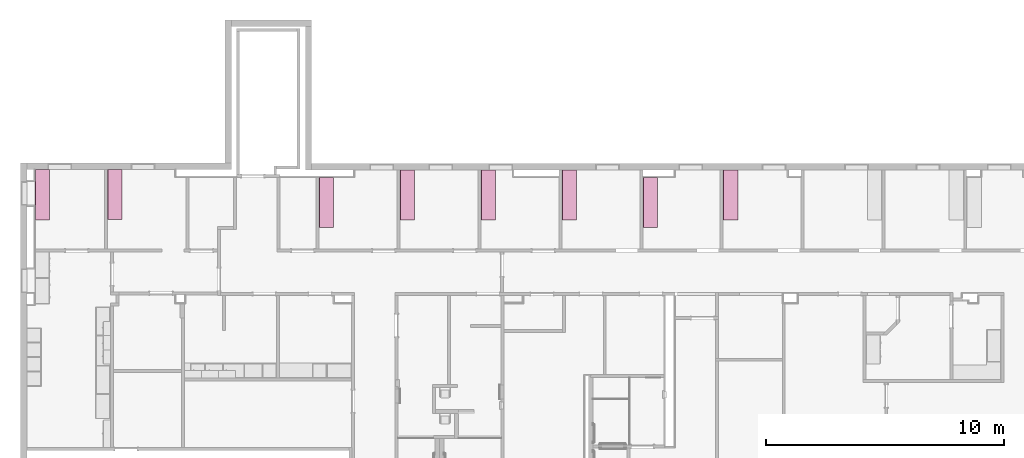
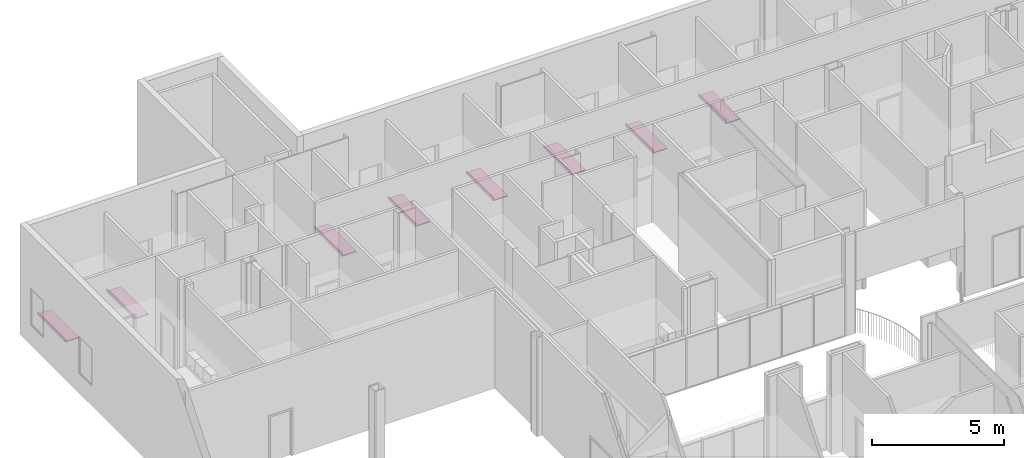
# One storey, part 44 of 47: 8 furnishings, 7 openings.
"""IFC2X3 building model written with IfcOpenShell, lengths in metres."""

from ifc_helpers import new_model, entity, si_unit, converted_unit, frame, frame_2d, origin, origin_2d_with_axis, place, context, project, spatial, polyline, circle_curve, parameter, trimmed, segment, composite_curve, rectangle, outline, extrude, source, transform, mapped, type_object, type_shapes, element, save


model = new_model("IFC2X3")

# Units and contexts
model_context = context("Model", 3, precision=1e-09, world=origin())
plan_context = context("Plan", 3, precision=1e-09, world=origin())
ifc_project = project(units=[si_unit("LENGTHUNIT", "METRE"), si_unit("AREAUNIT", "SQUARE_METRE"), si_unit("VOLUMEUNIT", "CUBIC_METRE"), converted_unit("PLANEANGLEUNIT", "DEGREE", entity("IfcRatioMeasure", 0.01745329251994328), si_unit("PLANEANGLEUNIT", "RADIAN"), dimensions=[0, 0, 0, 0, 0, 0, 0]), si_unit("TIMEUNIT", "SECOND")], contexts=[model_context, plan_context])

# Site, building, storey, space
site_placement = place(None, origin())
site = spatial("IfcSite", under=ifc_project, at=site_placement, Name="Default", CompositionType="ELEMENT")
building_placement = place(site_placement, origin())
building = spatial("IfcBuilding", under=site, at=building_placement, CompositionType="ELEMENT")
storey_placement = place(building_placement, frame((0.0, 0.0, 4.570000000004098)))
storey = spatial("IfcBuildingStorey", under=building, at=storey_placement, Name="Second Floor", CompositionType="ELEMENT", Elevation=4.570000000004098)
space_1_placement = place(storey_placement, origin())
space_1 = spatial("IfcSpace", under=storey, at=space_1_placement, Name="2C16", CompositionType="ELEMENT", InteriorOrExteriorSpace="INTERNAL")

# Furnishing
furniture_type_1 = type_object("IfcFurnitureType", Name="600mm Depth", AssemblyPlace="NOTDEFINED")
shared_shape_1 = source(origin(), model_context, "Body", "SweptSolid", [
    extrude(rectangle(XDim=0.01905000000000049, YDim=2.129539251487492, at=origin_2d_with_axis()), frame((-0.1356926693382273, -0.009525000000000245, 0.9000000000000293), z_axis=(0.0, 0.0, 1.0), x_axis=(0.0, -1.0, 0.0)), (0.0, 0.0, 1.0), 0.1016000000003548),
    extrude(rectangle(XDim=2.129539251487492, YDim=0.5999999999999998, at=origin_2d_with_axis()), frame((-0.1356926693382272, -0.2999999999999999, 0.8600000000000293), z_axis=(0.0, 0.0, 1.0), x_axis=(-1.0, 0.0, 0.0)), (0.0, 0.0, 1.0), 0.04000000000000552),
])
type_shapes(furniture_type_1, [shared_shape_1])
furnishing_1_placement = place(space_1_placement, frame((-46.77000000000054, 49.3083617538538, 0.0), z_axis=(0.0, 0.0, 1.0), x_axis=(0.0, 1.0, 0.0)))
element("IfcFurnishingElement", 1, at=furnishing_1_placement, inside=space_1, type_object=furniture_type_1, Name="M_Counter Top:600mm Depth:600mm Depth", ObjectType="600mm Depth", context=model_context, shape_type="MappedRepresentation", body=[
    mapped(shared_shape_1, transform((0.0, 0.0, 0.0), scale=1.0)),
])

# Space
space_2_placement = place(storey_placement, origin())
space_2 = spatial("IfcSpace", under=storey, at=space_2_placement, Name="2C14", CompositionType="ELEMENT", InteriorOrExteriorSpace="INTERNAL")

# Furnishing, opening
furniture_type_2 = type_object("IfcFurnitureType", Name="600mm Depth", AssemblyPlace="NOTDEFINED")
shared_shape_2 = source(origin(), model_context, "Body", "SweptSolid", [
    extrude(outline(polyline([(-0.0605333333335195, -0.2146833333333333), (0.08106666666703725, -0.2146833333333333), (0.08106666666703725, -0.1956333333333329), (-0.02053333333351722, -0.1956333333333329), (-0.02053333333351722, 0.4103166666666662), (-0.0605333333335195, 0.4103166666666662), (-0.0605333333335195, -0.2146833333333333)])), frame((-1.200462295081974, -0.2146833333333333, 0.920533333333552), z_axis=(1.0, 0.0, 0.0), x_axis=(0.0, 0.0, 1.0)), (0.0, 0.0, 1.0), 2.10996063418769),
])
type_shapes(furniture_type_2, [shared_shape_2])
furnishing_2_placement = place(space_2_placement, frame((-43.73000000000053, 49.3279403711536, 0.0), z_axis=(0.0, 0.0, 1.0), x_axis=(0.0, 1.0, 0.0)))
furnishing_2 = element("IfcFurnishingElement", 2, at=furnishing_2_placement, inside=space_2, type_object=furniture_type_2, Name="M_Counter Top w Sink Hole:600mm Depth:600mm Depth", ObjectType="600mm Depth", context=model_context, shape_type="MappedRepresentation", body=[
    mapped(shared_shape_2, transform((0.0, 0.0, 0.0), scale=1.0)),
])
opening_1_placement = place(space_2_placement, frame((-43.73000000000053, 49.3279403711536, 0.0), z_axis=(0.0, 0.0, 1.0), x_axis=(0.0, 1.0, 0.0)))
element("IfcOpeningElement", 3, at=opening_1_placement, cuts=furnishing_2, Name="M_Counter Top w Sink Hole:600mm Depth:600mm Depth:1", ObjectType="Opening", context=model_context, shape_type="SweptSolid", body=[
    extrude(outline(composite_curve([segment(polyline([(-0.1397000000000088, -0.2017000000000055), (0.1396999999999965, -0.2017000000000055)]), True, "CONTINUOUS"), segment(trimmed(circle_curve(frame_2d((0.1396999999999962, -0.1508999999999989), x_axis=(1.0, 0.0)), 0.05080000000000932), [parameter(270.0000000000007)], [parameter(1.068666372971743e-12)], True, "PARAMETER"), True, "CONTINUOUS"), segment(polyline([(0.1905000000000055, -0.1508999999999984), (0.1905000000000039, 0.1509000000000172)]), True, "CONTINUOUS"), segment(trimmed(circle_curve(frame_2d((0.1397000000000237, 0.1509000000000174), x_axis=(1.0, 0.0)), 0.05079999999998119), [parameter(359.9999999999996)], [parameter(90.0000000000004)], True, "PARAMETER"), True, "CONTINUOUS"), segment(polyline([(0.1397000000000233, 0.2016999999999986), (-0.1397000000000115, 0.2016999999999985)]), True, "CONTINUOUS"), segment(trimmed(circle_curve(frame_2d((-0.1397000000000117, 0.1509000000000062), x_axis=(1.0, 0.0)), 0.0507999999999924), [parameter(90.00000000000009)], [parameter(179.9999999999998)], True, "PARAMETER"), True, "CONTINUOUS"), segment(polyline([(-0.1905000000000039, 0.150900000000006), (-0.1905000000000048, -0.1509000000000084)]), True, "CONTINUOUS"), segment(trimmed(circle_curve(frame_2d((-0.1397000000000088, -0.1509000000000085), x_axis=(1.0, 0.0)), 0.05079999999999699), [parameter(179.9999999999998)], [parameter(269.9999999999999)], True, "PARAMETER"), True, "CONTINUOUS")], self_intersect=False)), frame((-0.2890000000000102, 0.861511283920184, -3.670000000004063), z_axis=(0.0, 0.0, -1.0), x_axis=(0.0, -1.0, 0.0)), (0.0, 0.0, 1.0), 0.04000000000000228),
])

# Space
space_3_placement = place(storey_placement, origin())
space_3 = spatial("IfcSpace", under=storey, at=space_3_placement, Name="2C09", CompositionType="ELEMENT", InteriorOrExteriorSpace="INTERNAL")

# Furnishing, opening
furniture_type_3 = type_object("IfcFurnitureType", Name="600mm Depth", AssemblyPlace="NOTDEFINED")
shared_shape_3 = source(origin(), model_context, "Body", "SweptSolid", [
    extrude(outline(polyline([(-0.0605333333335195, -0.2146833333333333), (0.08106666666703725, -0.2146833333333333), (0.08106666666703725, -0.1956333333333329), (-0.02053333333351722, -0.1956333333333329), (-0.02053333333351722, 0.4103166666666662), (-0.0605333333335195, 0.4103166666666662), (-0.0605333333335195, -0.2146833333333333)])), frame((-1.200462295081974, -0.2146833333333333, 0.920533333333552), z_axis=(1.0, 0.0, 0.0), x_axis=(0.0, 0.0, 1.0)), (0.0, 0.0, 1.0), 2.10996063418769),
])
type_shapes(furniture_type_3, [shared_shape_3])
furnishing_3_placement = place(space_3_placement, frame((-34.82600000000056, 48.9849403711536, 0.0), z_axis=(0.0, 0.0, 1.0), x_axis=(0.0, 1.0, 0.0)))
furnishing_3 = element("IfcFurnishingElement", 4, at=furnishing_3_placement, inside=space_3, type_object=furniture_type_3, Name="M_Counter Top w Sink Hole:600mm Depth:600mm Depth", ObjectType="600mm Depth", context=model_context, shape_type="MappedRepresentation", body=[
    mapped(shared_shape_3, transform((0.0, 0.0, 0.0), scale=1.0)),
])
opening_2_placement = place(space_3_placement, frame((-34.82600000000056, 48.9849403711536, 0.0), z_axis=(0.0, 0.0, 1.0), x_axis=(0.0, 1.0, 0.0)))
element("IfcOpeningElement", 5, at=opening_2_placement, cuts=furnishing_3, Name="M_Counter Top w Sink Hole:600mm Depth:600mm Depth:1", ObjectType="Opening", context=model_context, shape_type="SweptSolid", body=[
    extrude(outline(composite_curve([segment(polyline([(-0.1397000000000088, -0.2017000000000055), (0.1396999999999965, -0.2017000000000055)]), True, "CONTINUOUS"), segment(trimmed(circle_curve(frame_2d((0.1396999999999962, -0.1508999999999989), x_axis=(1.0, 0.0)), 0.05080000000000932), [parameter(270.0000000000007)], [parameter(1.068666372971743e-12)], True, "PARAMETER"), True, "CONTINUOUS"), segment(polyline([(0.1905000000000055, -0.1508999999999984), (0.1905000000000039, 0.1509000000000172)]), True, "CONTINUOUS"), segment(trimmed(circle_curve(frame_2d((0.1397000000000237, 0.1509000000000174), x_axis=(1.0, 0.0)), 0.05079999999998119), [parameter(359.9999999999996)], [parameter(90.0000000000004)], True, "PARAMETER"), True, "CONTINUOUS"), segment(polyline([(0.1397000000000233, 0.2016999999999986), (-0.1397000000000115, 0.2016999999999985)]), True, "CONTINUOUS"), segment(trimmed(circle_curve(frame_2d((-0.1397000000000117, 0.1509000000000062), x_axis=(1.0, 0.0)), 0.0507999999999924), [parameter(90.00000000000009)], [parameter(179.9999999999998)], True, "PARAMETER"), True, "CONTINUOUS"), segment(polyline([(-0.1905000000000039, 0.150900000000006), (-0.1905000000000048, -0.1509000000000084)]), True, "CONTINUOUS"), segment(trimmed(circle_curve(frame_2d((-0.1397000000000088, -0.1509000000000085), x_axis=(1.0, 0.0)), 0.05079999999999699), [parameter(179.9999999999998)], [parameter(269.9999999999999)], True, "PARAMETER"), True, "CONTINUOUS")], self_intersect=False)), frame((-0.2890000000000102, 0.861511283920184, -3.670000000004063), z_axis=(0.0, 0.0, -1.0), x_axis=(0.0, -1.0, 0.0)), (0.0, 0.0, 1.0), 0.04000000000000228),
])

# Space
space_4_placement = place(storey_placement, origin())
space_4 = spatial("IfcSpace", under=storey, at=space_4_placement, Name="2C06", CompositionType="ELEMENT", InteriorOrExteriorSpace="INTERNAL")

# Furnishing, opening
furniture_type_4 = type_object("IfcFurnitureType", Name="600mm Depth", AssemblyPlace="NOTDEFINED")
shared_shape_4 = source(origin(), model_context, "Body", "SweptSolid", [
    extrude(outline(polyline([(-0.0605333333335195, -0.2146833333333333), (0.08106666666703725, -0.2146833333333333), (0.08106666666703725, -0.1956333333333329), (-0.02053333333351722, -0.1956333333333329), (-0.02053333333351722, 0.4103166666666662), (-0.0605333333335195, 0.4103166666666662), (-0.0605333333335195, -0.2146833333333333)])), frame((-1.200462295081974, -0.2146833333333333, 0.920533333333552), z_axis=(1.0, 0.0, 0.0), x_axis=(0.0, 0.0, 1.0)), (0.0, 0.0, 1.0), 2.10996063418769),
])
type_shapes(furniture_type_4, [shared_shape_4])
furnishing_4_placement = place(space_4_placement, frame((-31.41600000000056, 49.2935016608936, 0.0), z_axis=(0.0, 0.0, 1.0), x_axis=(0.0, 1.0, 0.0)))
furnishing_4 = element("IfcFurnishingElement", 6, at=furnishing_4_placement, inside=space_4, type_object=furniture_type_4, Name="M_Counter Top w Sink Hole:600mm Depth:600mm Depth", ObjectType="600mm Depth", context=model_context, shape_type="MappedRepresentation", body=[
    mapped(shared_shape_4, transform((0.0, 0.0, 0.0), scale=1.0)),
])
opening_3_placement = place(space_4_placement, frame((-31.41600000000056, 49.2935016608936, 0.0), z_axis=(0.0, 0.0, 1.0), x_axis=(0.0, 1.0, 0.0)))
element("IfcOpeningElement", 7, at=opening_3_placement, cuts=furnishing_4, Name="M_Counter Top w Sink Hole:600mm Depth:600mm Depth:1", ObjectType="Opening", context=model_context, shape_type="SweptSolid", body=[
    extrude(outline(composite_curve([segment(polyline([(-0.1397000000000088, -0.2017000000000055), (0.1396999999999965, -0.2017000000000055)]), True, "CONTINUOUS"), segment(trimmed(circle_curve(frame_2d((0.1396999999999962, -0.1508999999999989), x_axis=(1.0, 0.0)), 0.05080000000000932), [parameter(270.0000000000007)], [parameter(1.068666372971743e-12)], True, "PARAMETER"), True, "CONTINUOUS"), segment(polyline([(0.1905000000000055, -0.1508999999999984), (0.1905000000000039, 0.1509000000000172)]), True, "CONTINUOUS"), segment(trimmed(circle_curve(frame_2d((0.1397000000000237, 0.1509000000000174), x_axis=(1.0, 0.0)), 0.05079999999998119), [parameter(359.9999999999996)], [parameter(90.0000000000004)], True, "PARAMETER"), True, "CONTINUOUS"), segment(polyline([(0.1397000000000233, 0.2016999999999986), (-0.1397000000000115, 0.2016999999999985)]), True, "CONTINUOUS"), segment(trimmed(circle_curve(frame_2d((-0.1397000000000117, 0.1509000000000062), x_axis=(1.0, 0.0)), 0.0507999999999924), [parameter(90.00000000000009)], [parameter(179.9999999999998)], True, "PARAMETER"), True, "CONTINUOUS"), segment(polyline([(-0.1905000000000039, 0.150900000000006), (-0.1905000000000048, -0.1509000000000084)]), True, "CONTINUOUS"), segment(trimmed(circle_curve(frame_2d((-0.1397000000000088, -0.1509000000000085), x_axis=(1.0, 0.0)), 0.05079999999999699), [parameter(179.9999999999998)], [parameter(269.9999999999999)], True, "PARAMETER"), True, "CONTINUOUS")], self_intersect=False)), frame((-0.2890000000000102, 0.861511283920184, -3.670000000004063), z_axis=(0.0, 0.0, -1.0), x_axis=(0.0, -1.0, 0.0)), (0.0, 0.0, 1.0), 0.04000000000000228),
])

# Space
space_5_placement = place(storey_placement, origin())
space_5 = spatial("IfcSpace", under=storey, at=space_5_placement, Name="2C04", CompositionType="ELEMENT", InteriorOrExteriorSpace="INTERNAL")

# Furnishing, opening
furniture_type_5 = type_object("IfcFurnitureType", Name="600mm Depth", AssemblyPlace="NOTDEFINED")
shared_shape_5 = source(origin(), model_context, "Body", "SweptSolid", [
    extrude(outline(polyline([(-0.0605333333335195, -0.2146833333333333), (0.08106666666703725, -0.2146833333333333), (0.08106666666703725, -0.1956333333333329), (-0.02053333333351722, -0.1956333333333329), (-0.02053333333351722, 0.4103166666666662), (-0.0605333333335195, 0.4103166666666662), (-0.0605333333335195, -0.2146833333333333)])), frame((-1.200462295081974, -0.2146833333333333, 0.920533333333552), z_axis=(1.0, 0.0, 0.0), x_axis=(0.0, 0.0, 1.0)), (0.0, 0.0, 1.0), 2.10996063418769),
])
type_shapes(furniture_type_5, [shared_shape_5])
furnishing_5_placement = place(space_5_placement, frame((-28.00600000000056, 49.29350166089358, 0.0), z_axis=(0.0, 0.0, 1.0), x_axis=(0.0, 1.0, 0.0)))
furnishing_5 = element("IfcFurnishingElement", 8, at=furnishing_5_placement, inside=space_5, type_object=furniture_type_5, Name="M_Counter Top w Sink Hole:600mm Depth:600mm Depth", ObjectType="600mm Depth", context=model_context, shape_type="MappedRepresentation", body=[
    mapped(shared_shape_5, transform((0.0, 0.0, 0.0), scale=1.0)),
])
opening_4_placement = place(space_5_placement, frame((-28.00600000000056, 49.29350166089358, 0.0), z_axis=(0.0, 0.0, 1.0), x_axis=(0.0, 1.0, 0.0)))
element("IfcOpeningElement", 9, at=opening_4_placement, cuts=furnishing_5, Name="M_Counter Top w Sink Hole:600mm Depth:600mm Depth:1", ObjectType="Opening", context=model_context, shape_type="SweptSolid", body=[
    extrude(outline(composite_curve([segment(polyline([(-0.1397000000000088, -0.2017000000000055), (0.1396999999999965, -0.2017000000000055)]), True, "CONTINUOUS"), segment(trimmed(circle_curve(frame_2d((0.1396999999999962, -0.1508999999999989), x_axis=(1.0, 0.0)), 0.05080000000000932), [parameter(270.0000000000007)], [parameter(1.068666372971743e-12)], True, "PARAMETER"), True, "CONTINUOUS"), segment(polyline([(0.1905000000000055, -0.1508999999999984), (0.1905000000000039, 0.1509000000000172)]), True, "CONTINUOUS"), segment(trimmed(circle_curve(frame_2d((0.1397000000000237, 0.1509000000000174), x_axis=(1.0, 0.0)), 0.05079999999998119), [parameter(359.9999999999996)], [parameter(90.0000000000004)], True, "PARAMETER"), True, "CONTINUOUS"), segment(polyline([(0.1397000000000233, 0.2016999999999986), (-0.1397000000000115, 0.2016999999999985)]), True, "CONTINUOUS"), segment(trimmed(circle_curve(frame_2d((-0.1397000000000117, 0.1509000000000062), x_axis=(1.0, 0.0)), 0.0507999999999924), [parameter(90.00000000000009)], [parameter(179.9999999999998)], True, "PARAMETER"), True, "CONTINUOUS"), segment(polyline([(-0.1905000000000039, 0.150900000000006), (-0.1905000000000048, -0.1509000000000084)]), True, "CONTINUOUS"), segment(trimmed(circle_curve(frame_2d((-0.1397000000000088, -0.1509000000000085), x_axis=(1.0, 0.0)), 0.05079999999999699), [parameter(179.9999999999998)], [parameter(269.9999999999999)], True, "PARAMETER"), True, "CONTINUOUS")], self_intersect=False)), frame((-0.2890000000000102, 0.861511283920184, -3.670000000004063), z_axis=(0.0, 0.0, -1.0), x_axis=(0.0, -1.0, 0.0)), (0.0, 0.0, 1.0), 0.04000000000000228),
])

# Space
space_6_placement = place(storey_placement, origin())
space_6 = spatial("IfcSpace", under=storey, at=space_6_placement, Name="2C02", CompositionType="ELEMENT", InteriorOrExteriorSpace="INTERNAL")

# Furnishing, opening
furniture_type_6 = type_object("IfcFurnitureType", Name="600mm Depth", AssemblyPlace="NOTDEFINED")
shared_shape_6 = source(origin(), model_context, "Body", "SweptSolid", [
    extrude(outline(polyline([(-0.0605333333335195, -0.2146833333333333), (0.08106666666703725, -0.2146833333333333), (0.08106666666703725, -0.1956333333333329), (-0.02053333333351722, -0.1956333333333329), (-0.02053333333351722, 0.4103166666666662), (-0.0605333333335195, 0.4103166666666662), (-0.0605333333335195, -0.2146833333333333)])), frame((-1.200462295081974, -0.2146833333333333, 0.920533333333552), z_axis=(1.0, 0.0, 0.0), x_axis=(0.0, 0.0, 1.0)), (0.0, 0.0, 1.0), 2.10996063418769),
])
type_shapes(furniture_type_6, [shared_shape_6])
furnishing_6_placement = place(space_6_placement, frame((-24.59600000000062, 49.29350166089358, 0.0), z_axis=(0.0, 0.0, 1.0), x_axis=(0.0, 1.0, 0.0)))
furnishing_6 = element("IfcFurnishingElement", 10, at=furnishing_6_placement, inside=space_6, type_object=furniture_type_6, Name="M_Counter Top w Sink Hole:600mm Depth:600mm Depth", ObjectType="600mm Depth", context=model_context, shape_type="MappedRepresentation", body=[
    mapped(shared_shape_6, transform((0.0, 0.0, 0.0), scale=1.0)),
])
opening_5_placement = place(space_6_placement, frame((-24.59600000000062, 49.29350166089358, 0.0), z_axis=(0.0, 0.0, 1.0), x_axis=(0.0, 1.0, 0.0)))
element("IfcOpeningElement", 11, at=opening_5_placement, cuts=furnishing_6, Name="M_Counter Top w Sink Hole:600mm Depth:600mm Depth:1", ObjectType="Opening", context=model_context, shape_type="SweptSolid", body=[
    extrude(outline(composite_curve([segment(polyline([(-0.1397000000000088, -0.2017000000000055), (0.1396999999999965, -0.2017000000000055)]), True, "CONTINUOUS"), segment(trimmed(circle_curve(frame_2d((0.1396999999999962, -0.1508999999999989), x_axis=(1.0, 0.0)), 0.05080000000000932), [parameter(270.0000000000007)], [parameter(1.068666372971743e-12)], True, "PARAMETER"), True, "CONTINUOUS"), segment(polyline([(0.1905000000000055, -0.1508999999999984), (0.1905000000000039, 0.1509000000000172)]), True, "CONTINUOUS"), segment(trimmed(circle_curve(frame_2d((0.1397000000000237, 0.1509000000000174), x_axis=(1.0, 0.0)), 0.05079999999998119), [parameter(359.9999999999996)], [parameter(90.0000000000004)], True, "PARAMETER"), True, "CONTINUOUS"), segment(polyline([(0.1397000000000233, 0.2016999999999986), (-0.1397000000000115, 0.2016999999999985)]), True, "CONTINUOUS"), segment(trimmed(circle_curve(frame_2d((-0.1397000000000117, 0.1509000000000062), x_axis=(1.0, 0.0)), 0.0507999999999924), [parameter(90.00000000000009)], [parameter(179.9999999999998)], True, "PARAMETER"), True, "CONTINUOUS"), segment(polyline([(-0.1905000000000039, 0.150900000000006), (-0.1905000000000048, -0.1509000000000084)]), True, "CONTINUOUS"), segment(trimmed(circle_curve(frame_2d((-0.1397000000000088, -0.1509000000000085), x_axis=(1.0, 0.0)), 0.05079999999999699), [parameter(179.9999999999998)], [parameter(269.9999999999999)], True, "PARAMETER"), True, "CONTINUOUS")], self_intersect=False)), frame((-0.2890000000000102, 0.861511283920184, -3.670000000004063), z_axis=(0.0, 0.0, -1.0), x_axis=(0.0, -1.0, 0.0)), (0.0, 0.0, 1.0), 0.04000000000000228),
])

# Space
space_7_placement = place(storey_placement, origin())
space_7 = spatial("IfcSpace", under=storey, at=space_7_placement, Name="2A09", CompositionType="ELEMENT", InteriorOrExteriorSpace="INTERNAL")

# Furnishing, opening
furniture_type_7 = type_object("IfcFurnitureType", Name="600mm Depth", AssemblyPlace="NOTDEFINED")
shared_shape_7 = source(origin(), model_context, "Body", "SweptSolid", [
    extrude(outline(polyline([(-0.0605333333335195, -0.2146833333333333), (0.08106666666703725, -0.2146833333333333), (0.08106666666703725, -0.1956333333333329), (-0.02053333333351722, -0.1956333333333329), (-0.02053333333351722, 0.4103166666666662), (-0.0605333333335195, 0.4103166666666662), (-0.0605333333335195, -0.2146833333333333)])), frame((-1.200462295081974, -0.2146833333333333, 0.920533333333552), z_axis=(1.0, 0.0, 0.0), x_axis=(0.0, 0.0, 1.0)), (0.0, 0.0, 1.0), 2.10996063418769),
])
type_shapes(furniture_type_7, [shared_shape_7])
furnishing_7_placement = place(space_7_placement, frame((-21.18600000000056, 48.98494037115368, 0.0), z_axis=(0.0, 0.0, 1.0), x_axis=(0.0, 1.0, 0.0)))
furnishing_7 = element("IfcFurnishingElement", 12, at=furnishing_7_placement, inside=space_7, type_object=furniture_type_7, Name="M_Counter Top w Sink Hole:600mm Depth:600mm Depth", ObjectType="600mm Depth", context=model_context, shape_type="MappedRepresentation", body=[
    mapped(shared_shape_7, transform((0.0, 0.0, 0.0), scale=1.0)),
])
opening_6_placement = place(space_7_placement, frame((-21.18600000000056, 48.98494037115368, 0.0), z_axis=(0.0, 0.0, 1.0), x_axis=(0.0, 1.0, 0.0)))
element("IfcOpeningElement", 13, at=opening_6_placement, cuts=furnishing_7, Name="M_Counter Top w Sink Hole:600mm Depth:600mm Depth:1", ObjectType="Opening", context=model_context, shape_type="SweptSolid", body=[
    extrude(outline(composite_curve([segment(polyline([(-0.1397000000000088, -0.2017000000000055), (0.1396999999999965, -0.2017000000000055)]), True, "CONTINUOUS"), segment(trimmed(circle_curve(frame_2d((0.1396999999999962, -0.1508999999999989), x_axis=(1.0, 0.0)), 0.05080000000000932), [parameter(270.0000000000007)], [parameter(1.068666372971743e-12)], True, "PARAMETER"), True, "CONTINUOUS"), segment(polyline([(0.1905000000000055, -0.1508999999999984), (0.1905000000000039, 0.1509000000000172)]), True, "CONTINUOUS"), segment(trimmed(circle_curve(frame_2d((0.1397000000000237, 0.1509000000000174), x_axis=(1.0, 0.0)), 0.05079999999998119), [parameter(359.9999999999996)], [parameter(90.0000000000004)], True, "PARAMETER"), True, "CONTINUOUS"), segment(polyline([(0.1397000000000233, 0.2016999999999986), (-0.1397000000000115, 0.2016999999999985)]), True, "CONTINUOUS"), segment(trimmed(circle_curve(frame_2d((-0.1397000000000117, 0.1509000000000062), x_axis=(1.0, 0.0)), 0.0507999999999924), [parameter(90.00000000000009)], [parameter(179.9999999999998)], True, "PARAMETER"), True, "CONTINUOUS"), segment(polyline([(-0.1905000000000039, 0.150900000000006), (-0.1905000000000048, -0.1509000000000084)]), True, "CONTINUOUS"), segment(trimmed(circle_curve(frame_2d((-0.1397000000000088, -0.1509000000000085), x_axis=(1.0, 0.0)), 0.05079999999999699), [parameter(179.9999999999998)], [parameter(269.9999999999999)], True, "PARAMETER"), True, "CONTINUOUS")], self_intersect=False)), frame((-0.2890000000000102, 0.861511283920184, -3.670000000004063), z_axis=(0.0, 0.0, -1.0), x_axis=(0.0, -1.0, 0.0)), (0.0, 0.0, 1.0), 0.04000000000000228),
])

# Space
space_8_placement = place(storey_placement, origin())
space_8 = spatial("IfcSpace", under=storey, at=space_8_placement, Name="2A08", CompositionType="ELEMENT", InteriorOrExteriorSpace="INTERNAL")

# Furnishing, opening
furniture_type_8 = type_object("IfcFurnitureType", Name="600mm Depth", AssemblyPlace="NOTDEFINED")
shared_shape_8 = source(origin(), model_context, "Body", "SweptSolid", [
    extrude(outline(polyline([(-0.0605333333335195, -0.2146833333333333), (0.08106666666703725, -0.2146833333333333), (0.08106666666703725, -0.1956333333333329), (-0.02053333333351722, -0.1956333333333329), (-0.02053333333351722, 0.4103166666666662), (-0.0605333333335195, 0.4103166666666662), (-0.0605333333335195, -0.2146833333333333)])), frame((-1.200462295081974, -0.2146833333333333, 0.920533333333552), z_axis=(1.0, 0.0, 0.0), x_axis=(0.0, 0.0, 1.0)), (0.0, 0.0, 1.0), 2.10996063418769),
])
type_shapes(furniture_type_8, [shared_shape_8])
furnishing_8_placement = place(space_8_placement, frame((-17.81000000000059, 49.29350166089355, 0.0), z_axis=(0.0, 0.0, 1.0), x_axis=(0.0, 1.0, 0.0)))
furnishing_8 = element("IfcFurnishingElement", 14, at=furnishing_8_placement, inside=space_8, type_object=furniture_type_8, Name="M_Counter Top w Sink Hole:600mm Depth:600mm Depth", ObjectType="600mm Depth", context=model_context, shape_type="MappedRepresentation", body=[
    mapped(shared_shape_8, transform((0.0, 0.0, 0.0), scale=1.0)),
])
opening_7_placement = place(space_8_placement, frame((-17.81000000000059, 49.29350166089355, 0.0), z_axis=(0.0, 0.0, 1.0), x_axis=(0.0, 1.0, 0.0)))
element("IfcOpeningElement", 15, at=opening_7_placement, cuts=furnishing_8, Name="M_Counter Top w Sink Hole:600mm Depth:600mm Depth:1", ObjectType="Opening", context=model_context, shape_type="SweptSolid", body=[
    extrude(outline(composite_curve([segment(polyline([(-0.1397000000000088, -0.2017000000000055), (0.1396999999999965, -0.2017000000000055)]), True, "CONTINUOUS"), segment(trimmed(circle_curve(frame_2d((0.1396999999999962, -0.1508999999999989), x_axis=(1.0, 0.0)), 0.05080000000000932), [parameter(270.0000000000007)], [parameter(1.068666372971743e-12)], True, "PARAMETER"), True, "CONTINUOUS"), segment(polyline([(0.1905000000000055, -0.1508999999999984), (0.1905000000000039, 0.1509000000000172)]), True, "CONTINUOUS"), segment(trimmed(circle_curve(frame_2d((0.1397000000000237, 0.1509000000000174), x_axis=(1.0, 0.0)), 0.05079999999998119), [parameter(359.9999999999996)], [parameter(90.0000000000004)], True, "PARAMETER"), True, "CONTINUOUS"), segment(polyline([(0.1397000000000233, 0.2016999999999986), (-0.1397000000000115, 0.2016999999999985)]), True, "CONTINUOUS"), segment(trimmed(circle_curve(frame_2d((-0.1397000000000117, 0.1509000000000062), x_axis=(1.0, 0.0)), 0.0507999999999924), [parameter(90.00000000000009)], [parameter(179.9999999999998)], True, "PARAMETER"), True, "CONTINUOUS"), segment(polyline([(-0.1905000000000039, 0.150900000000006), (-0.1905000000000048, -0.1509000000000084)]), True, "CONTINUOUS"), segment(trimmed(circle_curve(frame_2d((-0.1397000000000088, -0.1509000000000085), x_axis=(1.0, 0.0)), 0.05079999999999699), [parameter(179.9999999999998)], [parameter(269.9999999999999)], True, "PARAMETER"), True, "CONTINUOUS")], self_intersect=False)), frame((-0.2890000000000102, 0.861511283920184, -3.670000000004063), z_axis=(0.0, 0.0, -1.0), x_axis=(0.0, -1.0, 0.0)), (0.0, 0.0, 1.0), 0.04000000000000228),
])

save(model, "model.ifc")
